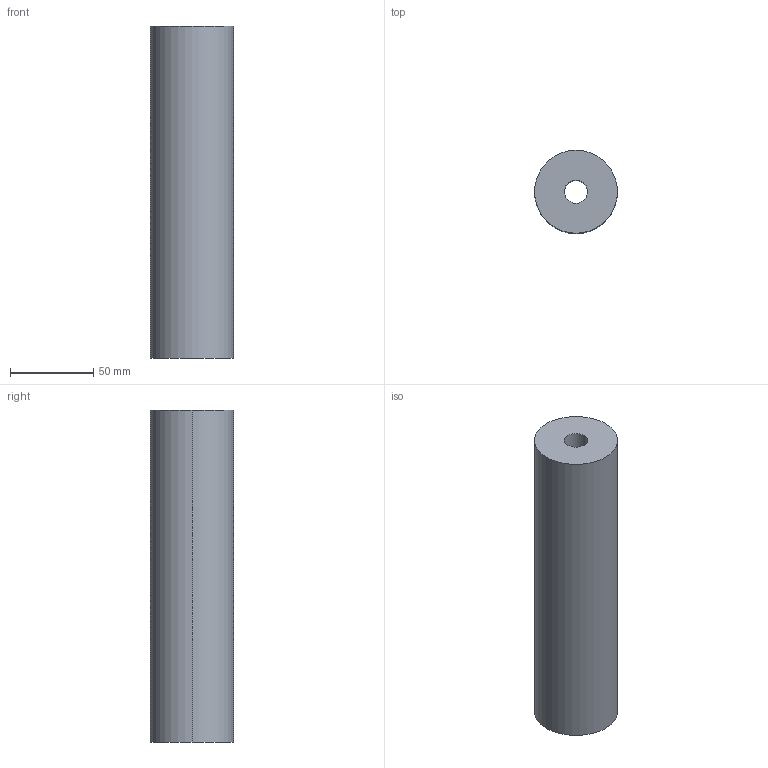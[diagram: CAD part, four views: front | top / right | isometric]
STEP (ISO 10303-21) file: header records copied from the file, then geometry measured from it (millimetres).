
FILE_DESCRIPTION(/* description */ (''),/* implementation_level */ '2;1');
FILE_NAME(/* name */ '3d_pla50-200_04963_r00.stp',/* time_stamp */ '2011-01-10T14:11:43+09:00',/* author */ ('MISUMI'),/* organization */ (''),/* preprocessor_version */ 'ST-DEVELOPER v11',/* originating_system */ 'UGS - NX 5.0',/* authorisation */ '');
FILE_SCHEMA (('CONFIG_CONTROL_DESIGN'));
Length unit declared in the file: millimetre
Products named in the file (1): 3d_pla50-200_04963_r00
Bounding box: 50 x 50 x 200 mm (x, y, z)
Volume: 361911.5 mm3; surface area: 43831.5 mm2
Topology: 1 solids, 1 shells, 6 faces, 12 edges, 8 vertices
Faces by surface type: cylinder 4, plane 2
Entity records: 254 total; most frequent: DIRECTION 34, CARTESIAN_POINT 27, ORIENTED_EDGE 24, AXIS2_PLACEMENT_3D 15, EDGE_CURVE 12, EDGE_LOOP 8, VERTEX_POINT 8, CIRCLE 8
